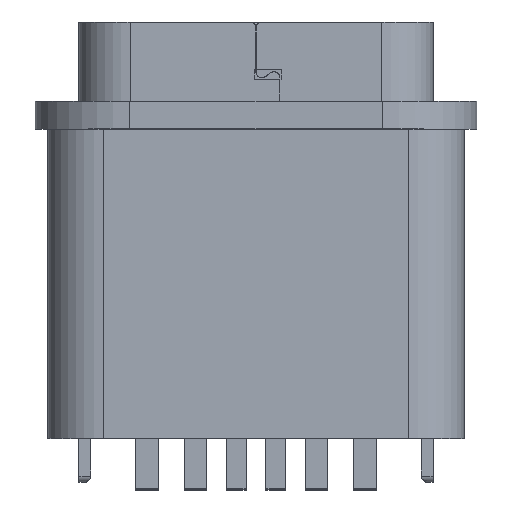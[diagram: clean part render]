
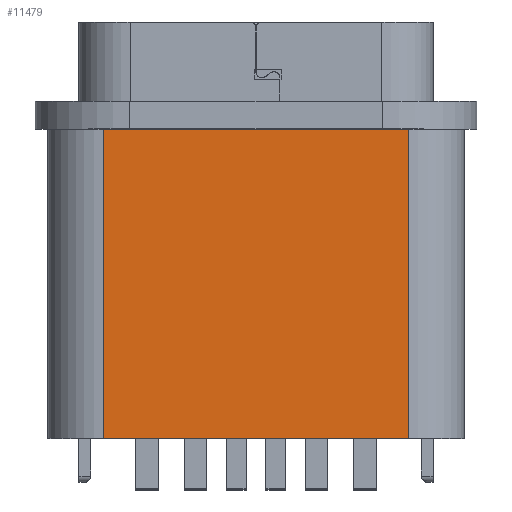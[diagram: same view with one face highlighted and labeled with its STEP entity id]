
A CAD part, top view. The second image highlights one B-rep face of the part: STEP entity #11479.
In plain terms, the highlighted planar face has unit normal (0, 0, 1).
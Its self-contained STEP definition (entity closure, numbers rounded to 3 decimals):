
#666=DIRECTION('',(-1.,0.,0.));
#667=VECTOR('',#666,7.7);
#668=CARTESIAN_POINT('',(3.85,2.25,2.38));
#669=LINE('',#668,#667);
#697=DIRECTION('',(0.,1.,0.));
#698=VECTOR('',#697,7.8);
#699=CARTESIAN_POINT('',(3.85,-5.55,2.38));
#700=LINE('',#699,#698);
#764=DIRECTION('',(1.,0.,0.));
#765=VECTOR('',#764,7.7);
#766=CARTESIAN_POINT('',(-3.85,-5.55,2.38));
#767=LINE('',#766,#765);
#1621=DIRECTION('',(0.,-1.,0.));
#1622=VECTOR('',#1621,7.8);
#1623=CARTESIAN_POINT('',(-3.85,2.25,2.38));
#1624=LINE('',#1623,#1622);
#7787=CARTESIAN_POINT('',(3.85,2.25,2.38));
#7789=VERTEX_POINT('',#7787);
#7790=CARTESIAN_POINT('',(-3.85,2.25,2.38));
#7791=VERTEX_POINT('',#7790);
#7804=CARTESIAN_POINT('',(3.85,-5.55,2.38));
#7805=VERTEX_POINT('',#7804);
#7816=CARTESIAN_POINT('',(-3.85,-5.55,2.38));
#7817=VERTEX_POINT('',#7816);
#11468=CARTESIAN_POINT('',(0.,-1.4,2.38));
#11469=DIRECTION('',(0.,0.,1.));
#11470=DIRECTION('',(1.,0.,0.));
#11471=AXIS2_PLACEMENT_3D('',#11468,#11469,#11470);
#11472=PLANE('',#11471);
#11473=ORIENTED_EDGE('',*,*,#10055,.F.);
#11474=ORIENTED_EDGE('',*,*,#10079,.F.);
#11475=ORIENTED_EDGE('',*,*,#10094,.F.);
#11476=ORIENTED_EDGE('',*,*,#11399,.F.);
#11477=EDGE_LOOP('',(#11473,#11474,#11475,#11476));
#11478=FACE_OUTER_BOUND('',#11477,.F.);
#11479=ADVANCED_FACE('',(#11478),#11472,.T.);
#10055=EDGE_CURVE('',#7789,#7791,#669,.T.);
#10079=EDGE_CURVE('',#7805,#7789,#700,.T.);
#10094=EDGE_CURVE('',#7817,#7805,#767,.T.);
#11399=EDGE_CURVE('',#7791,#7817,#1624,.T.);
